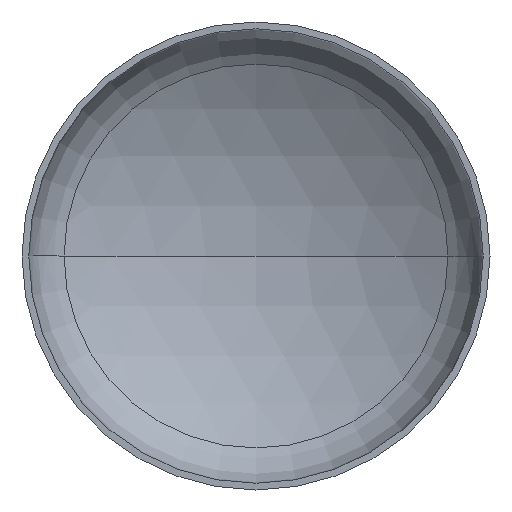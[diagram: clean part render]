
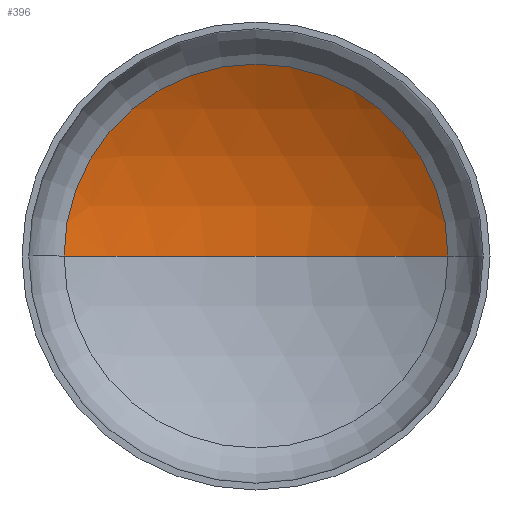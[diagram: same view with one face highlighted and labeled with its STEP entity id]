
A CAD part, front view. The second image highlights one B-rep face of the part: STEP entity #396.
In plain terms, the highlighted spherical face has radius 880 mm.
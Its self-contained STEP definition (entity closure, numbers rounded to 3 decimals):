
#1 = EDGE_LOOP ( 'NONE', ( #49, #38, #204 ) ) ;
#9 = DIRECTION ( 'NONE',  ( 1., 0., 0. ) ) ;
#12 = DIRECTION ( 'NONE',  ( 0., 0., 1. ) ) ;
#38 = ORIENTED_EDGE ( 'NONE', *, *, #92, .T. ) ;
#39 = AXIS2_PLACEMENT_3D ( 'NONE', #324, #12, #9 ) ;
#40 = AXIS2_PLACEMENT_3D ( 'NONE', #123, #329, #160 ) ;
#41 = AXIS2_PLACEMENT_3D ( 'NONE', #214, #216, #187 ) ;
#49 = ORIENTED_EDGE ( 'NONE', *, *, #94, .F. ) ;
#62 = VERTEX_POINT ( 'NONE', #378 ) ;
#70 = DIRECTION ( 'NONE',  ( 0., 0., -1. ) ) ;
#87 = CIRCLE ( 'NONE', #41, 451.155 ) ;
#91 = EDGE_CURVE ( 'NONE', #62, #302, #87, .T. ) ;
#92 = EDGE_CURVE ( 'NONE', #144, #62, #190, .T. ) ;
#94 = EDGE_CURVE ( 'NONE', #144, #302, #326, .T. ) ;
#123 = CARTESIAN_POINT ( 'NONE',  ( 0., -554.593, 0. ) ) ;
#144 = VERTEX_POINT ( 'NONE', #183 ) ;
#160 = DIRECTION ( 'NONE',  ( -1., 0., 0. ) ) ;
#167 = CARTESIAN_POINT ( 'NONE',  ( 0., -554.593, 0. ) ) ;
#178 = CARTESIAN_POINT ( 'NONE',  ( -451.155, 200.959, 0. ) ) ;
#183 = CARTESIAN_POINT ( 'NONE',  ( 0., 325.407, 0. ) ) ;
#187 = DIRECTION ( 'NONE',  ( 1., 0., 0. ) ) ;
#190 = CIRCLE ( 'NONE', #40, 880. ) ;
#194 = AXIS2_PLACEMENT_3D ( 'NONE', #167, #70, #201 ) ;
#197 = SPHERICAL_SURFACE ( 'NONE', #194, 880. ) ;
#201 = DIRECTION ( 'NONE',  ( -1., 0., 0. ) ) ;
#204 = ORIENTED_EDGE ( 'NONE', *, *, #91, .T. ) ;
#212 = FACE_OUTER_BOUND ( 'NONE', #1, .T. ) ;
#214 = CARTESIAN_POINT ( 'NONE',  ( 0., 200.959, 0. ) ) ;
#216 = DIRECTION ( 'NONE',  ( 0., -1., 0. ) ) ;
#302 = VERTEX_POINT ( 'NONE', #178 ) ;
#324 = CARTESIAN_POINT ( 'NONE',  ( 0., -554.593, 0. ) ) ;
#326 = CIRCLE ( 'NONE', #39, 880. ) ;
#329 = DIRECTION ( 'NONE',  ( 0., 0., -1. ) ) ;
#378 = CARTESIAN_POINT ( 'NONE',  ( 451.155, 200.959, 0. ) ) ;
#396 = ADVANCED_FACE ( 'NONE', ( #212 ), #197, .F. ) ;
